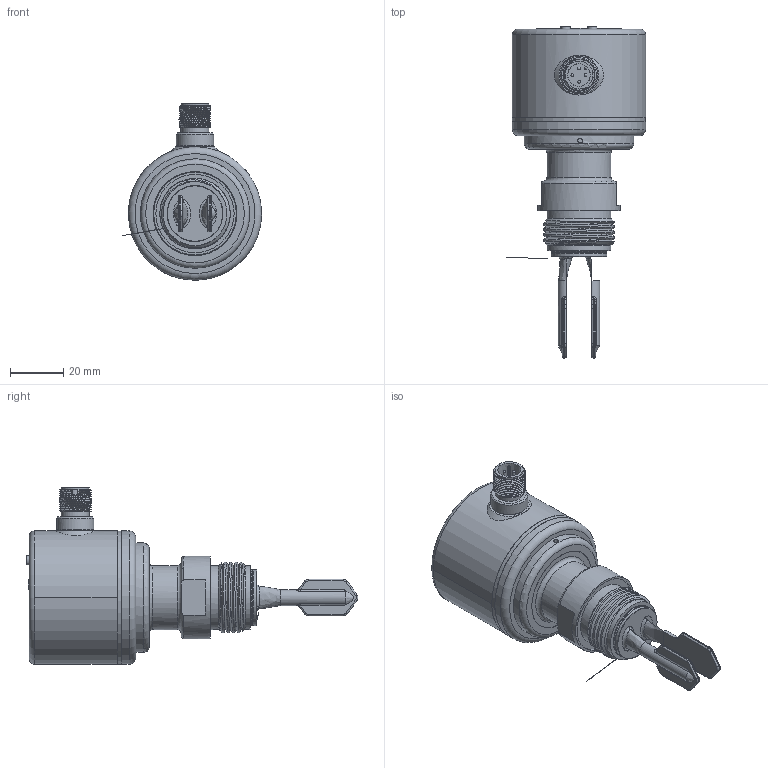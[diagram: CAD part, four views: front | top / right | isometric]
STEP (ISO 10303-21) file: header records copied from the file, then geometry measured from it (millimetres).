
FILE_DESCRIPTION(('STEP AP214'), '1');
FILE_NAME('VRS20AB00456', '', ('UNSPECIFIED'), ('UNSPECIFIED'), 'ASCON STEP Converter 1.6', 'ASCON Math Kernel', '');
FILE_SCHEMA(('AUTOMOTIVE_DESIGN { 1 0 10303 214 3 1 1}'));
Length unit declared in the file: millimetre
Bounding box: 52.24 x 124.53 x 66.2 mm (x, y, z)
Volume: 33517.6 mm3; surface area: 45882.7 mm2
Topology: 15 solids, 15 shells, 664 faces, 1535 edges, 966 vertices
Faces by surface type: plane 286, cylinder 257, bspline 44, cone 43, torus 30, sphere 4
Full cylindrical faces by diameter (mm): 1 x13, 1.2 x2, 1.5 x8, 1.7 x4, 1.8 x3, 2 x6, 2.5 x2, 3 x4, 3.5 x5, 3.8 x2, 4.5 x3, 5.5 x2, 6.5 x2, 9.6 x1, 9.7 x1, 10.5 x2, 11 x1, 14 x1, 18.5 x2, 19.7 x1, 19.8 x2, 21 x3, 24 x3, 26.4 x4, 29.4 x1, 31 x1, 31.5 x2, 35 x2, 41 x1, 44.5 x1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
Entity records: 45069 total; most frequent: CARTESIAN_POINT 19309, DIRECTION 2896, ORIENTED_EDGE 2786, EDGE_CURVE 1393, PROPERTY_DEFINITION 1328, PROPERTY_DEFINITION_REPRESENTATION 1328, REPRESENTATION 1328, AXIS2_PLACEMENT_3D 1124
